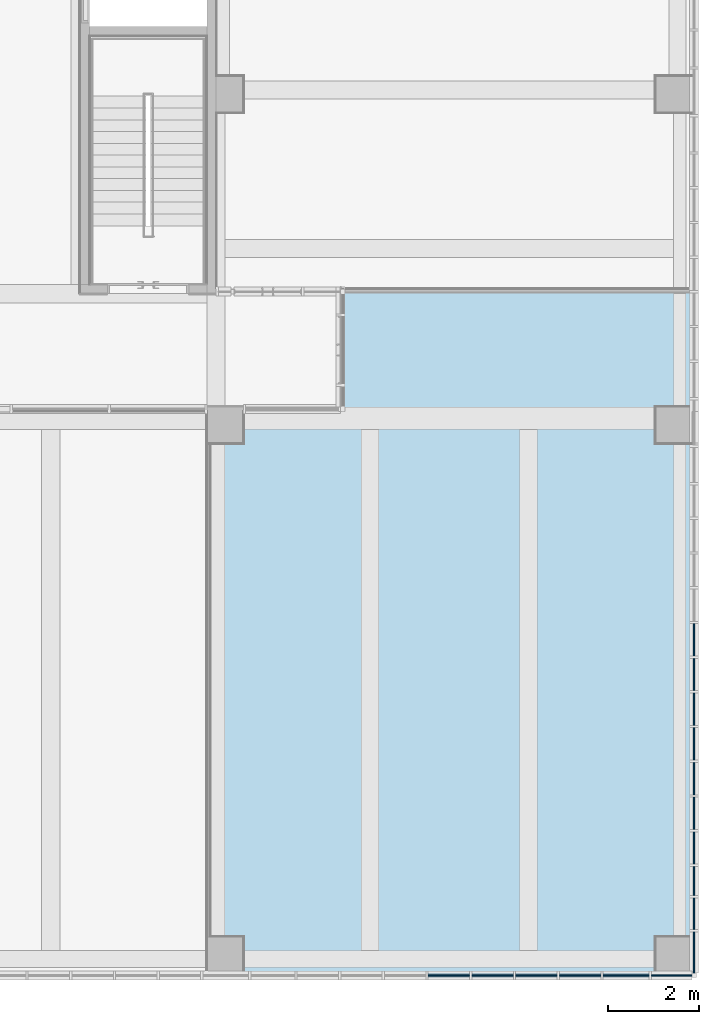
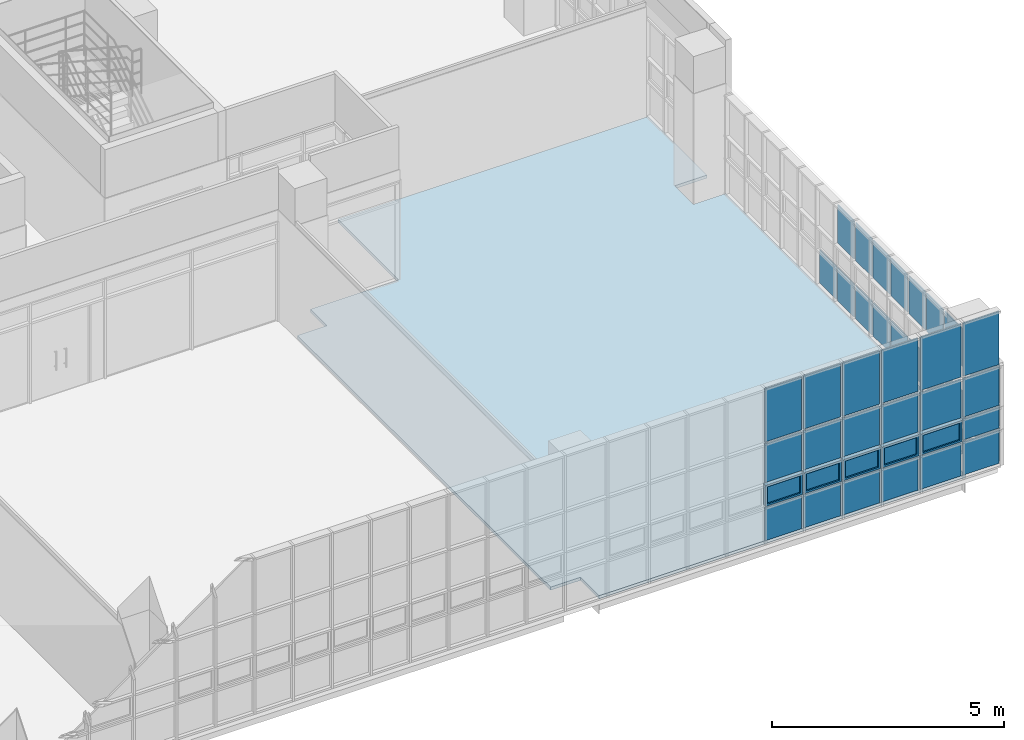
# One storey, part 35 of 76: 44 plates, 1 slab, 2 elements without a shape of their own.
"""IFC2X3 building model written with IfcOpenShell, lengths in millimetres."""

from ifc_helpers import new_model, entity, si_unit, converted_unit, derived_unit, direction, frame, origin, origin_2d_with_axis, place, context, subcontext, project, spatial, polyline, rectangle, outline, extrude, source, transform, mapped, material, material_list, layer, layer_set, layer_usage, type_object, type_shapes, element, aggregate, save


model = new_model("IFC2X3")

# Units and contexts
model_context = context("Model", 3, precision=0.01, world=origin(), true_north=direction((6.123031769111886e-17, 1.0)))
body_context = subcontext(model_context, "Body", "Model", "MODEL_VIEW")
ifc_project = project(units=[si_unit("LENGTHUNIT", "METRE", prefix="MILLI"), si_unit("AREAUNIT", "SQUARE_METRE"), si_unit("VOLUMEUNIT", "CUBIC_METRE"), converted_unit("PLANEANGLEUNIT", "DEGREE", entity("IfcRatioMeasure", 0.017453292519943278), si_unit("PLANEANGLEUNIT", "RADIAN"), dimensions=[0, 0, 0, 0, 0, 0, 0]), si_unit("MASSUNIT", "GRAM", prefix="KILO"), derived_unit("MASSDENSITYUNIT", [(si_unit("MASSUNIT", "GRAM", prefix="KILO"), 1), (si_unit("LENGTHUNIT", "METRE"), -3)]), derived_unit("MOMENTOFINERTIAUNIT", [(si_unit("LENGTHUNIT", "METRE"), 4)]), si_unit("TIMEUNIT", "SECOND"), si_unit("FREQUENCYUNIT", "HERTZ"), si_unit("THERMODYNAMICTEMPERATUREUNIT", "DEGREE_CELSIUS"), derived_unit("THERMALTRANSMITTANCEUNIT", [(si_unit("MASSUNIT", "GRAM", prefix="KILO"), 1), (si_unit("THERMODYNAMICTEMPERATUREUNIT", "KELVIN"), -1), (si_unit("TIMEUNIT", "SECOND"), -3)]), derived_unit("VOLUMETRICFLOWRATEUNIT", [(si_unit("LENGTHUNIT", "METRE"), 3), (si_unit("TIMEUNIT", "SECOND"), -1)]), derived_unit("MASSFLOWRATEUNIT", [(si_unit("MASSUNIT", "GRAM", prefix="KILO"), 1), (si_unit("TIMEUNIT", "SECOND"), -1)]), derived_unit("ROTATIONALFREQUENCYUNIT", [(si_unit("TIMEUNIT", "SECOND"), -1)]), si_unit("ELECTRICCURRENTUNIT", "AMPERE"), si_unit("ELECTRICVOLTAGEUNIT", "VOLT"), si_unit("POWERUNIT", "WATT"), si_unit("FORCEUNIT", "NEWTON", prefix="KILO"), si_unit("ILLUMINANCEUNIT", "LUX"), si_unit("LUMINOUSFLUXUNIT", "LUMEN"), si_unit("LUMINOUSINTENSITYUNIT", "CANDELA"), derived_unit("USERDEFINED", [(si_unit("MASSUNIT", "GRAM", prefix="KILO"), -1), (si_unit("LENGTHUNIT", "METRE"), -2), (si_unit("TIMEUNIT", "SECOND"), 3), (si_unit("LUMINOUSFLUXUNIT", "LUMEN"), 1)]), derived_unit("SOUNDPOWERUNIT", [(si_unit("MASSUNIT", "GRAM", prefix="KILO"), 1), (si_unit("LENGTHUNIT", "METRE"), 2), (si_unit("TIMEUNIT", "SECOND"), -3)]), derived_unit("SOUNDPRESSUREUNIT", [(si_unit("MASSUNIT", "GRAM", prefix="KILO"), 1), (si_unit("LENGTHUNIT", "METRE"), -1), (si_unit("TIMEUNIT", "SECOND"), -2)]), derived_unit("LINEARVELOCITYUNIT", [(si_unit("LENGTHUNIT", "METRE"), 1), (si_unit("TIMEUNIT", "SECOND"), -1)]), si_unit("PRESSUREUNIT", "PASCAL"), derived_unit("USERDEFINED", [(si_unit("LENGTHUNIT", "METRE"), -2), (si_unit("MASSUNIT", "GRAM", prefix="KILO"), 1), (si_unit("TIMEUNIT", "SECOND"), -2)]), derived_unit("LINEARFORCEUNIT", [(si_unit("MASSUNIT", "GRAM", prefix="KILO"), 1), (si_unit("LENGTHUNIT", "METRE"), 1), (si_unit("TIMEUNIT", "SECOND"), -2), (si_unit("LENGTHUNIT", "METRE"), -1)]), derived_unit("PLANARFORCEUNIT", [(si_unit("MASSUNIT", "GRAM", prefix="KILO"), 1), (si_unit("LENGTHUNIT", "METRE"), 1), (si_unit("TIMEUNIT", "SECOND"), -2), (si_unit("LENGTHUNIT", "METRE"), -2)])], contexts=[model_context])

# Site, building, storey
site_placement = place(None, frame((-14167.972527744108, -657.2125860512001, 0.0)))
site = spatial("IfcSite", under=ifc_project, at=site_placement, Name="Default", CompositionType="ELEMENT")
building_placement = place(site_placement, origin())
building = spatial("IfcBuilding", under=site, at=building_placement, Name="Sample Building", CompositionType="ELEMENT")
storey_placement = place(building_placement, frame((0.0, 0.0, 9300.0)))
storey = spatial("IfcBuildingStorey", under=building, at=storey_placement, Name="지상 3층", CompositionType="ELEMENT", Elevation=9300.000000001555)

# Curtain wall, plates
curtain_wall_type = type_object("IfcCurtainWallType", Name="커튼월:CW112-스테인리스 스틸 커튼월", PredefinedType="NOTDEFINED")
curtain_wall_1_placement = place(storey_placement, frame((0.0, 0.0, -9300.0)))
curtain_wall_1 = element("IfcCurtainWall", 1, at=curtain_wall_1_placement, inside=storey, type_object=curtain_wall_type, Name="커튼월:CW112-스테인리스 스틸 커튼월", ObjectType="커튼월:CW112-스테인리스 스틸 커튼월")
ifc_material_1 = material(Name="KBIMS-로이유리(코팅)")
plate_type_1 = type_object("IfcPlateType", Name="CW300-THK24.Low-e coating glass:CW300-THK24.Low-e coating glass", PredefinedType="CURTAIN_PANEL", material=ifc_material_1)
shared_shape_1 = source(origin(), body_context, "Body", "SweptSolid", [
    extrude(rectangle(XDim=914.9999999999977, YDim=24.000000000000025, at=origin_2d_with_axis()), frame((0.0, 0.0, 0.0), z_axis=(0.0, 0.0, 1.0), x_axis=(-1.0, 0.0, 0.0)), (0.0, 0.0, 1.0), 875.0000000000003),
])
type_shapes(plate_type_1, [shared_shape_1])
plate_1_placement = place(curtain_wall_1_placement, frame((46107.65607007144, 507.2122951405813, 9430.0)))
plate_1 = element("IfcPlate", 2, at=plate_1_placement, type_object=plate_type_1, material=ifc_material_1, Name="CW300-THK24.Low-e coating glass:CW300-THK24.Low-e coating glass", ObjectType="CW300-THK24.Low-e coating glass:CW300-THK24.Low-e coating glass", context=body_context, shape_type="MappedRepresentation", body=[
    mapped(shared_shape_1, transform((0.0, 0.0, 0.0), scale=1.0)),
])
plate_2_placement = place(curtain_wall_1_placement, frame((47072.65607007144, 507.2122951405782, 9430.0)))
plate_2 = element("IfcPlate", 3, at=plate_2_placement, type_object=plate_type_1, material=ifc_material_1, Name="CW300-THK24.Low-e coating glass:CW300-THK24.Low-e coating glass", ObjectType="CW300-THK24.Low-e coating glass:CW300-THK24.Low-e coating glass", context=body_context, shape_type="MappedRepresentation", body=[
    mapped(shared_shape_1, transform((0.0, 0.0, 0.0), scale=1.0)),
])
plate_3_placement = place(curtain_wall_1_placement, frame((48037.65607007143, 507.21229514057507, 9430.0)))
plate_3 = element("IfcPlate", 4, at=plate_3_placement, type_object=plate_type_1, material=ifc_material_1, Name="CW300-THK24.Low-e coating glass:CW300-THK24.Low-e coating glass", ObjectType="CW300-THK24.Low-e coating glass:CW300-THK24.Low-e coating glass", context=body_context, shape_type="MappedRepresentation", body=[
    mapped(shared_shape_1, transform((0.0, 0.0, 0.0), scale=1.0)),
])
plate_4_placement = place(curtain_wall_1_placement, frame((49002.65607007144, 507.21229514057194, 9430.0)))
plate_4 = element("IfcPlate", 5, at=plate_4_placement, type_object=plate_type_1, material=ifc_material_1, Name="CW300-THK24.Low-e coating glass:CW300-THK24.Low-e coating glass", ObjectType="CW300-THK24.Low-e coating glass:CW300-THK24.Low-e coating glass", context=body_context, shape_type="MappedRepresentation", body=[
    mapped(shared_shape_1, transform((0.0, 0.0, 0.0), scale=1.0)),
])
plate_type_2 = type_object("IfcPlateType", Name="CW300-THK24.Low-e coating glass:CW300-THK24.Low-e coating glass", PredefinedType="CURTAIN_PANEL", material=ifc_material_1)
shared_shape_2 = source(origin(), body_context, "Body", "SweptSolid", [
    extrude(rectangle(XDim=1014.9999999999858, YDim=24.000000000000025, at=origin_2d_with_axis()), frame((0.0, 0.0, 0.0), z_axis=(0.0, 0.0, 1.0), x_axis=(-1.0, 0.0, 0.0)), (0.0, 0.0, 1.0), 875.0000000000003),
])
type_shapes(plate_type_2, [shared_shape_2])
plate_5_placement = place(curtain_wall_1_placement, frame((50017.65607007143, 507.21229514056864, 9430.0)))
plate_5 = element("IfcPlate", 6, at=plate_5_placement, type_object=plate_type_2, material=ifc_material_1, Name="CW300-THK24.Low-e coating glass:CW300-THK24.Low-e coating glass", ObjectType="CW300-THK24.Low-e coating glass:CW300-THK24.Low-e coating glass", context=body_context, shape_type="MappedRepresentation", body=[
    mapped(shared_shape_2, transform((0.0, 0.0, 0.0), scale=1.0)),
])
plate_type_3 = type_object("IfcPlateType", Name="CW300-THK24.Low-e coating glass:CW300-THK24.Low-e coating glass", PredefinedType="CURTAIN_PANEL", material=ifc_material_1)
shared_shape_3 = source(origin(), body_context, "Body", "SweptSolid", [
    extrude(rectangle(XDim=892.8077588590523, YDim=24.000000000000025, at=origin_2d_with_axis()), frame((0.0, 0.0, 0.0), z_axis=(0.0, 0.0, 1.0), x_axis=(-1.0, 0.0, 0.0)), (0.0, 0.0, 1.0), 875.0000000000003),
])
type_shapes(plate_type_3, [shared_shape_3])
plate_6_placement = place(curtain_wall_1_placement, frame((51021.55994950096, 507.2122951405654, 9430.0)))
plate_6 = element("IfcPlate", 7, at=plate_6_placement, type_object=plate_type_3, material=ifc_material_1, Name="CW300-THK24.Low-e coating glass:CW300-THK24.Low-e coating glass", ObjectType="CW300-THK24.Low-e coating glass:CW300-THK24.Low-e coating glass", context=body_context, shape_type="MappedRepresentation", body=[
    mapped(shared_shape_3, transform((0.0, 0.0, 0.0), scale=1.0)),
])
ifc_material_2 = material(Name="KBIMS-유리")
ifc_material_3 = material(Name="KBIMS-알루미늄")
ifc_material_list_1 = material_list([ifc_material_2, ifc_material_3])
ifc_material_list_2 = material_list([ifc_material_2, ifc_material_3])
plate_type_4 = type_object("IfcPlateType", Name="CW410-프로젝트 창:CW410-프로젝트 창 (하부개폐)", PredefinedType="CURTAIN_PANEL", material=ifc_material_list_2)
shared_shape_4 = source(origin(), body_context, "Body", "SweptSolid", [
    extrude(rectangle(XDim=815.0000000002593, YDim=23.999999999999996, at=origin_2d_with_axis()), frame((0.0, -0.04999999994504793, 50.0), z_axis=(0.0, 0.0, 1.0), x_axis=(-1.0, 0.0, 0.0)), (0.0, 0.0, 1.0), 450.0000000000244),
    extrude(outline(polyline([(-457.4999999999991, -275.0), (457.4999999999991, -275.0), (457.4999999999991, 275.0), (-457.4999999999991, 275.0), (-457.4999999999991, -275.0)]), holes=[polyline([(-407.50000000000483, -225.0), (-407.5000000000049, 225.0), (407.50000000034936, 225.0), (407.50000000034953, -225.0), (-407.50000000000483, -225.0)])]), frame((0.0, -50.04999999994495, 275.0), z_axis=(0.0, 1.0, 0.0), x_axis=(1.0, 0.0, 0.0)), (0.0, 0.0, 1.0), 99.99999999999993),
])
type_shapes(plate_type_4, [shared_shape_4])
plate_7_placement = place(curtain_wall_1_placement, frame((46107.65607007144, 507.2122951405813, 10355.0)))
plate_7 = element("IfcPlate", 8, at=plate_7_placement, type_object=plate_type_4, material=ifc_material_list_1, Name="CW410-프로젝트 창:CW410-프로젝트 창 (하부개폐)", ObjectType="CW410-프로젝트 창:CW410-프로젝트 창 (하부개폐)", context=body_context, shape_type="MappedRepresentation", body=[
    mapped(shared_shape_4, transform((0.0, 0.0, 0.0), scale=1.0)),
])
ifc_material_list_3 = material_list([ifc_material_2, ifc_material_3])
plate_8_placement = place(curtain_wall_1_placement, frame((47072.65607007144, 507.2122951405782, 10355.0)))
plate_8 = element("IfcPlate", 9, at=plate_8_placement, type_object=plate_type_4, material=ifc_material_list_3, Name="CW410-프로젝트 창:CW410-프로젝트 창 (하부개폐)", ObjectType="CW410-프로젝트 창:CW410-프로젝트 창 (하부개폐)", context=body_context, shape_type="MappedRepresentation", body=[
    mapped(shared_shape_4, transform((0.0, 0.0, 0.0), scale=1.0)),
])
ifc_material_list_4 = material_list([ifc_material_2, ifc_material_3])
plate_9_placement = place(curtain_wall_1_placement, frame((48037.65607007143, 507.21229514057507, 10355.0)))
plate_9 = element("IfcPlate", 10, at=plate_9_placement, type_object=plate_type_4, material=ifc_material_list_4, Name="CW410-프로젝트 창:CW410-프로젝트 창 (하부개폐)", ObjectType="CW410-프로젝트 창:CW410-프로젝트 창 (하부개폐)", context=body_context, shape_type="MappedRepresentation", body=[
    mapped(shared_shape_4, transform((0.0, 0.0, 0.0), scale=1.0)),
])
ifc_material_list_5 = material_list([ifc_material_2, ifc_material_3])
plate_10_placement = place(curtain_wall_1_placement, frame((49002.65607007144, 507.21229514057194, 10355.0)))
plate_10 = element("IfcPlate", 11, at=plate_10_placement, type_object=plate_type_4, material=ifc_material_list_5, Name="CW410-프로젝트 창:CW410-프로젝트 창 (하부개폐)", ObjectType="CW410-프로젝트 창:CW410-프로젝트 창 (하부개폐)", context=body_context, shape_type="MappedRepresentation", body=[
    mapped(shared_shape_4, transform((0.0, 0.0, 0.0), scale=1.0)),
])
ifc_material_list_6 = material_list([ifc_material_2, ifc_material_3])
ifc_material_list_7 = material_list([ifc_material_2, ifc_material_3])
plate_type_5 = type_object("IfcPlateType", Name="CW410-프로젝트 창:CW410-프로젝트 창 (하부개폐)", PredefinedType="CURTAIN_PANEL", material=ifc_material_list_7)
shared_shape_5 = source(origin(), body_context, "Body", "SweptSolid", [
    extrude(rectangle(XDim=915.0000000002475, YDim=23.999999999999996, at=origin_2d_with_axis()), frame((0.0, -0.04999999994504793, 50.0), z_axis=(0.0, 0.0, 1.0), x_axis=(-1.0, 0.0, 0.0)), (0.0, 0.0, 1.0), 450.0000000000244),
    extrude(outline(polyline([(-507.4999999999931, -275.0), (507.4999999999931, -275.0), (507.4999999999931, 275.0), (-507.4999999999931, 275.0), (-507.4999999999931, -275.0)]), holes=[polyline([(-457.49999999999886, -225.0), (-457.4999999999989, 225.0), (457.50000000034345, 225.0), (457.50000000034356, -225.0), (-457.49999999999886, -225.0)])]), frame((0.0, -50.04999999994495, 275.0), z_axis=(0.0, 1.0, 0.0), x_axis=(1.0, 0.0, 0.0)), (0.0, 0.0, 1.0), 99.99999999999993),
])
type_shapes(plate_type_5, [shared_shape_5])
plate_11_placement = place(curtain_wall_1_placement, frame((50017.65607007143, 507.21229514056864, 10355.0)))
plate_11 = element("IfcPlate", 12, at=plate_11_placement, type_object=plate_type_5, material=ifc_material_list_6, Name="CW410-프로젝트 창:CW410-프로젝트 창 (하부개폐)", ObjectType="CW410-프로젝트 창:CW410-프로젝트 창 (하부개폐)", context=body_context, shape_type="MappedRepresentation", body=[
    mapped(shared_shape_5, transform((0.0, 0.0, 0.0), scale=1.0)),
])
plate_type_6 = type_object("IfcPlateType", Name="CW300-THK24.Low-e coating glass:CW300-THK24.Low-e coating glass", PredefinedType="CURTAIN_PANEL", material=ifc_material_1)
shared_shape_6 = source(origin(), body_context, "Body", "SweptSolid", [
    extrude(rectangle(XDim=892.8077588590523, YDim=24.000000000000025, at=origin_2d_with_axis()), frame((0.0, 0.0, 0.0), z_axis=(0.0, 0.0, 1.0), x_axis=(-1.0, 0.0, 0.0)), (0.0, 0.0, 1.0), 549.9999999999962),
])
type_shapes(plate_type_6, [shared_shape_6])
plate_12_placement = place(curtain_wall_1_placement, frame((51021.55994950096, 507.2122951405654, 10355.0)))
plate_12 = element("IfcPlate", 13, at=plate_12_placement, type_object=plate_type_6, material=ifc_material_1, Name="CW300-THK24.Low-e coating glass:CW300-THK24.Low-e coating glass", ObjectType="CW300-THK24.Low-e coating glass:CW300-THK24.Low-e coating glass", context=body_context, shape_type="MappedRepresentation", body=[
    mapped(shared_shape_6, transform((0.0, 0.0, 0.0), scale=1.0)),
])
plate_type_7 = type_object("IfcPlateType", Name="CW300-THK24.Low-e coating glass:CW300-THK24.Low-e coating glass", PredefinedType="CURTAIN_PANEL", material=ifc_material_1)
shared_shape_7 = source(origin(), body_context, "Body", "SweptSolid", [
    extrude(rectangle(XDim=914.9999999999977, YDim=24.000000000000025, at=origin_2d_with_axis()), frame((0.0, 0.0, 0.0), z_axis=(0.0, 0.0, 1.0), x_axis=(-1.0, 0.0, 0.0)), (0.0, 0.0, 1.0), 1020.0000000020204),
])
type_shapes(plate_type_7, [shared_shape_7])
plate_13_placement = place(curtain_wall_1_placement, frame((46107.65607007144, 507.2122951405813, 10955.0)))
plate_13 = element("IfcPlate", 14, at=plate_13_placement, type_object=plate_type_7, material=ifc_material_1, Name="CW300-THK24.Low-e coating glass:CW300-THK24.Low-e coating glass", ObjectType="CW300-THK24.Low-e coating glass:CW300-THK24.Low-e coating glass", context=body_context, shape_type="MappedRepresentation", body=[
    mapped(shared_shape_7, transform((0.0, 0.0, 0.0), scale=1.0)),
])
plate_14_placement = place(curtain_wall_1_placement, frame((47072.65607007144, 507.2122951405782, 10955.0)))
plate_14 = element("IfcPlate", 15, at=plate_14_placement, type_object=plate_type_7, material=ifc_material_1, Name="CW300-THK24.Low-e coating glass:CW300-THK24.Low-e coating glass", ObjectType="CW300-THK24.Low-e coating glass:CW300-THK24.Low-e coating glass", context=body_context, shape_type="MappedRepresentation", body=[
    mapped(shared_shape_7, transform((0.0, 0.0, 0.0), scale=1.0)),
])
plate_15_placement = place(curtain_wall_1_placement, frame((48037.65607007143, 507.21229514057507, 10955.0)))
plate_15 = element("IfcPlate", 16, at=plate_15_placement, type_object=plate_type_7, material=ifc_material_1, Name="CW300-THK24.Low-e coating glass:CW300-THK24.Low-e coating glass", ObjectType="CW300-THK24.Low-e coating glass:CW300-THK24.Low-e coating glass", context=body_context, shape_type="MappedRepresentation", body=[
    mapped(shared_shape_7, transform((0.0, 0.0, 0.0), scale=1.0)),
])
plate_16_placement = place(curtain_wall_1_placement, frame((49002.65607007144, 507.21229514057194, 10955.0)))
plate_16 = element("IfcPlate", 17, at=plate_16_placement, type_object=plate_type_7, material=ifc_material_1, Name="CW300-THK24.Low-e coating glass:CW300-THK24.Low-e coating glass", ObjectType="CW300-THK24.Low-e coating glass:CW300-THK24.Low-e coating glass", context=body_context, shape_type="MappedRepresentation", body=[
    mapped(shared_shape_7, transform((0.0, 0.0, 0.0), scale=1.0)),
])
plate_type_8 = type_object("IfcPlateType", Name="CW300-THK24.Low-e coating glass:CW300-THK24.Low-e coating glass", PredefinedType="CURTAIN_PANEL", material=ifc_material_1)
shared_shape_8 = source(origin(), body_context, "Body", "SweptSolid", [
    extrude(rectangle(XDim=1014.9999999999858, YDim=24.000000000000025, at=origin_2d_with_axis()), frame((0.0, 0.0, 0.0), z_axis=(0.0, 0.0, 1.0), x_axis=(-1.0, 0.0, 0.0)), (0.0, 0.0, 1.0), 1020.0000000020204),
])
type_shapes(plate_type_8, [shared_shape_8])
plate_17_placement = place(curtain_wall_1_placement, frame((50017.65607007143, 507.21229514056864, 10955.0)))
plate_17 = element("IfcPlate", 18, at=plate_17_placement, type_object=plate_type_8, material=ifc_material_1, Name="CW300-THK24.Low-e coating glass:CW300-THK24.Low-e coating glass", ObjectType="CW300-THK24.Low-e coating glass:CW300-THK24.Low-e coating glass", context=body_context, shape_type="MappedRepresentation", body=[
    mapped(shared_shape_8, transform((0.0, 0.0, 0.0), scale=1.0)),
])
plate_type_9 = type_object("IfcPlateType", Name="CW300-THK24.Low-e coating glass:CW300-THK24.Low-e coating glass", PredefinedType="CURTAIN_PANEL", material=ifc_material_1)
shared_shape_9 = source(origin(), body_context, "Body", "SweptSolid", [
    extrude(rectangle(XDim=892.8077588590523, YDim=24.000000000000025, at=origin_2d_with_axis()), frame((0.0, 0.0, 0.0), z_axis=(0.0, 0.0, 1.0), x_axis=(-1.0, 0.0, 0.0)), (0.0, 0.0, 1.0), 1020.0000000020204),
])
type_shapes(plate_type_9, [shared_shape_9])
plate_18_placement = place(curtain_wall_1_placement, frame((51021.55994950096, 507.2122951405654, 10955.0)))
plate_18 = element("IfcPlate", 19, at=plate_18_placement, type_object=plate_type_9, material=ifc_material_1, Name="CW300-THK24.Low-e coating glass:CW300-THK24.Low-e coating glass", ObjectType="CW300-THK24.Low-e coating glass:CW300-THK24.Low-e coating glass", context=body_context, shape_type="MappedRepresentation", body=[
    mapped(shared_shape_9, transform((0.0, 0.0, 0.0), scale=1.0)),
])
plate_type_10 = type_object("IfcPlateType", Name="CW300-THK24.Low-e coating glass:CW300-THK24.Low-e coating glass", PredefinedType="CURTAIN_PANEL", material=ifc_material_1)
shared_shape_10 = source(origin(), body_context, "Body", "SweptSolid", [
    extrude(rectangle(XDim=914.9999999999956, YDim=24.000000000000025, at=origin_2d_with_axis()), frame((0.0, 0.0, 0.0), z_axis=(0.0, 0.0, 1.0), x_axis=(-1.0, 0.0, 0.0)), (0.0, 0.0, 1.0), 1404.9999999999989),
])
type_shapes(plate_type_10, [shared_shape_10])
plate_19_placement = place(curtain_wall_1_placement, frame((46107.65607007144, 507.2122951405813, 12025.0)))
plate_19 = element("IfcPlate", 20, at=plate_19_placement, type_object=plate_type_10, material=ifc_material_1, Name="CW300-THK24.Low-e coating glass:CW300-THK24.Low-e coating glass", ObjectType="CW300-THK24.Low-e coating glass:CW300-THK24.Low-e coating glass", context=body_context, shape_type="MappedRepresentation", body=[
    mapped(shared_shape_10, transform((0.0, 0.0, 0.0), scale=1.0)),
])
plate_20_placement = place(curtain_wall_1_placement, frame((47072.65607007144, 507.2122951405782, 12025.0)))
plate_20 = element("IfcPlate", 21, at=plate_20_placement, type_object=plate_type_10, material=ifc_material_1, Name="CW300-THK24.Low-e coating glass:CW300-THK24.Low-e coating glass", ObjectType="CW300-THK24.Low-e coating glass:CW300-THK24.Low-e coating glass", context=body_context, shape_type="MappedRepresentation", body=[
    mapped(shared_shape_10, transform((0.0, 0.0, 0.0), scale=1.0)),
])
plate_21_placement = place(curtain_wall_1_placement, frame((48037.65607007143, 507.21229514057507, 12025.0)))
plate_21 = element("IfcPlate", 22, at=plate_21_placement, type_object=plate_type_10, material=ifc_material_1, Name="CW300-THK24.Low-e coating glass:CW300-THK24.Low-e coating glass", ObjectType="CW300-THK24.Low-e coating glass:CW300-THK24.Low-e coating glass", context=body_context, shape_type="MappedRepresentation", body=[
    mapped(shared_shape_10, transform((0.0, 0.0, 0.0), scale=1.0)),
])
plate_22_placement = place(curtain_wall_1_placement, frame((49002.65607007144, 507.21229514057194, 12025.0)))
plate_22 = element("IfcPlate", 23, at=plate_22_placement, type_object=plate_type_10, material=ifc_material_1, Name="CW300-THK24.Low-e coating glass:CW300-THK24.Low-e coating glass", ObjectType="CW300-THK24.Low-e coating glass:CW300-THK24.Low-e coating glass", context=body_context, shape_type="MappedRepresentation", body=[
    mapped(shared_shape_10, transform((0.0, 0.0, 0.0), scale=1.0)),
])
plate_type_11 = type_object("IfcPlateType", Name="CW300-THK24.Low-e coating glass:CW300-THK24.Low-e coating glass", PredefinedType="CURTAIN_PANEL", material=ifc_material_1)
shared_shape_11 = source(origin(), body_context, "Body", "SweptSolid", [
    extrude(rectangle(XDim=1014.9999999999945, YDim=24.000000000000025, at=origin_2d_with_axis()), frame((0.0, 0.0, 0.0), z_axis=(0.0, 0.0, 1.0), x_axis=(-1.0, 0.0, 0.0)), (0.0, 0.0, 1.0), 1404.9999999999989),
])
type_shapes(plate_type_11, [shared_shape_11])
plate_23_placement = place(curtain_wall_1_placement, frame((50017.65607007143, 507.21229514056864, 12025.0)))
plate_23 = element("IfcPlate", 24, at=plate_23_placement, type_object=plate_type_11, material=ifc_material_1, Name="CW300-THK24.Low-e coating glass:CW300-THK24.Low-e coating glass", ObjectType="CW300-THK24.Low-e coating glass:CW300-THK24.Low-e coating glass", context=body_context, shape_type="MappedRepresentation", body=[
    mapped(shared_shape_11, transform((0.0, 0.0, 0.0), scale=1.0)),
])
plate_type_12 = type_object("IfcPlateType", Name="CW300-THK24.Low-e coating glass:CW300-THK24.Low-e coating glass", PredefinedType="CURTAIN_PANEL", material=ifc_material_1)
shared_shape_12 = source(origin(), body_context, "Body", "SweptSolid", [
    extrude(rectangle(XDim=892.8077588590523, YDim=24.000000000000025, at=origin_2d_with_axis()), frame((0.0, 0.0, 0.0), z_axis=(0.0, 0.0, 1.0), x_axis=(-1.0, 0.0, 0.0)), (0.0, 0.0, 1.0), 1404.9999999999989),
])
type_shapes(plate_type_12, [shared_shape_12])
plate_24_placement = place(curtain_wall_1_placement, frame((51021.55994950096, 507.2122951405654, 12025.0)))
plate_24 = element("IfcPlate", 25, at=plate_24_placement, type_object=plate_type_12, material=ifc_material_1, Name="CW300-THK24.Low-e coating glass:CW300-THK24.Low-e coating glass", ObjectType="CW300-THK24.Low-e coating glass:CW300-THK24.Low-e coating glass", context=body_context, shape_type="MappedRepresentation", body=[
    mapped(shared_shape_12, transform((0.0, 0.0, 0.0), scale=1.0)),
])
aggregate(curtain_wall_1, [plate_1, plate_2, plate_3, plate_4, plate_5, plate_6, plate_7, plate_8, plate_9, plate_10, plate_11, plate_12, plate_13, plate_14, plate_15, plate_16, plate_17, plate_18, plate_19, plate_20, plate_21, plate_22, plate_23, plate_24])

curtain_wall_2_placement = place(storey_placement, frame((0.0, 0.0, -9300.0)))
curtain_wall_2 = element("IfcCurtainWall", 26, at=curtain_wall_2_placement, inside=storey, type_object=curtain_wall_type, Name="커튼월:CW112-스테인리스 스틸 커튼월", ObjectType="커튼월:CW112-스테인리스 스틸 커튼월")
plate_type_13 = type_object("IfcPlateType", Name="CW300-THK24.Low-e coating glass:CW300-THK24.Low-e coating glass", PredefinedType="CURTAIN_PANEL", material=ifc_material_1)
shared_shape_13 = source(origin(), body_context, "Body", "SweptSolid", [
    extrude(rectangle(XDim=24.000000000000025, YDim=715.9999999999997, at=origin_2d_with_axis()), frame((0.0, 0.0, 0.0), z_axis=(0.0, 0.0, 1.0), x_axis=(0.0, 1.0, 0.0)), (0.0, 0.0, 1.0), 875.0000000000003),
])
type_shapes(plate_type_13, [shared_shape_13])
plate_25_placement = place(curtain_wall_2_placement, frame((51517.96382893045, 7917.817707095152, 9430.0), z_axis=(0.0, 0.0, 1.0), x_axis=(0.0, -1.0, 0.0)))
plate_25 = element("IfcPlate", 27, at=plate_25_placement, type_object=plate_type_13, material=ifc_material_1, Name="CW300-THK24.Low-e coating glass:CW300-THK24.Low-e coating glass", ObjectType="CW300-THK24.Low-e coating glass:CW300-THK24.Low-e coating glass", context=body_context, shape_type="MappedRepresentation", body=[
    mapped(shared_shape_13, transform((0.0, 0.0, 0.0), scale=1.0)),
])
plate_26_placement = place(curtain_wall_2_placement, frame((51517.96382893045, 7151.817707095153, 9430.0), z_axis=(0.0, 0.0, 1.0), x_axis=(0.0, -1.0, 0.0)))
plate_26 = element("IfcPlate", 28, at=plate_26_placement, type_object=plate_type_13, material=ifc_material_1, Name="CW300-THK24.Low-e coating glass:CW300-THK24.Low-e coating glass", ObjectType="CW300-THK24.Low-e coating glass:CW300-THK24.Low-e coating glass", context=body_context, shape_type="MappedRepresentation", body=[
    mapped(shared_shape_13, transform((0.0, 0.0, 0.0), scale=1.0)),
])
plate_27_placement = place(curtain_wall_2_placement, frame((51517.96382893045, 6385.817707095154, 9430.0), z_axis=(0.0, 0.0, 1.0), x_axis=(0.0, -1.0, 0.0)))
plate_27 = element("IfcPlate", 29, at=plate_27_placement, type_object=plate_type_13, material=ifc_material_1, Name="CW300-THK24.Low-e coating glass:CW300-THK24.Low-e coating glass", ObjectType="CW300-THK24.Low-e coating glass:CW300-THK24.Low-e coating glass", context=body_context, shape_type="MappedRepresentation", body=[
    mapped(shared_shape_13, transform((0.0, 0.0, 0.0), scale=1.0)),
])
plate_28_placement = place(curtain_wall_2_placement, frame((51517.96382893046, 5619.817707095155, 9430.0), z_axis=(0.0, 0.0, 1.0), x_axis=(0.0, -1.0, 0.0)))
plate_28 = element("IfcPlate", 30, at=plate_28_placement, type_object=plate_type_13, material=ifc_material_1, Name="CW300-THK24.Low-e coating glass:CW300-THK24.Low-e coating glass", ObjectType="CW300-THK24.Low-e coating glass:CW300-THK24.Low-e coating glass", context=body_context, shape_type="MappedRepresentation", body=[
    mapped(shared_shape_13, transform((0.0, 0.0, 0.0), scale=1.0)),
])
plate_29_placement = place(curtain_wall_2_placement, frame((51517.96382893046, 4853.817707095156, 9430.0), z_axis=(0.0, 0.0, 1.0), x_axis=(0.0, -1.0, 0.0)))
plate_29 = element("IfcPlate", 31, at=plate_29_placement, type_object=plate_type_13, material=ifc_material_1, Name="CW300-THK24.Low-e coating glass:CW300-THK24.Low-e coating glass", ObjectType="CW300-THK24.Low-e coating glass:CW300-THK24.Low-e coating glass", context=body_context, shape_type="MappedRepresentation", body=[
    mapped(shared_shape_13, transform((0.0, 0.0, 0.0), scale=1.0)),
])
plate_30_placement = place(curtain_wall_2_placement, frame((51517.96382893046, 4087.8177070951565, 9430.0), z_axis=(0.0, 0.0, 1.0), x_axis=(0.0, -1.0, 0.0)))
plate_30 = element("IfcPlate", 32, at=plate_30_placement, type_object=plate_type_13, material=ifc_material_1, Name="CW300-THK24.Low-e coating glass:CW300-THK24.Low-e coating glass", ObjectType="CW300-THK24.Low-e coating glass:CW300-THK24.Low-e coating glass", context=body_context, shape_type="MappedRepresentation", body=[
    mapped(shared_shape_13, transform((0.0, 0.0, 0.0), scale=1.0)),
])
plate_31_placement = place(curtain_wall_2_placement, frame((51517.96382893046, 3321.8177070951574, 9430.0), z_axis=(0.0, 0.0, 1.0), x_axis=(0.0, -1.0, 0.0)))
plate_31 = element("IfcPlate", 33, at=plate_31_placement, type_object=plate_type_13, material=ifc_material_1, Name="CW300-THK24.Low-e coating glass:CW300-THK24.Low-e coating glass", ObjectType="CW300-THK24.Low-e coating glass:CW300-THK24.Low-e coating glass", context=body_context, shape_type="MappedRepresentation", body=[
    mapped(shared_shape_13, transform((0.0, 0.0, 0.0), scale=1.0)),
])
plate_type_14 = type_object("IfcPlateType", Name="CW300-THK24.Low-e coating glass:CW300-THK24.Low-e coating glass", PredefinedType="CURTAIN_PANEL", material=ifc_material_1)
shared_shape_14 = source(origin(), body_context, "Body", "SweptSolid", [
    extrude(rectangle(XDim=24.000000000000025, YDim=642.0000000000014, at=origin_2d_with_axis()), frame((0.0, 0.0, 0.0), z_axis=(0.0, 0.0, 1.0), x_axis=(0.0, 1.0, 0.0)), (0.0, 0.0, 1.0), 875.0000000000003),
])
type_shapes(plate_type_14, [shared_shape_14])
plate_32_placement = place(curtain_wall_2_placement, frame((51517.96382893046, 2592.8177070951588, 9430.0), z_axis=(0.0, 0.0, 1.0), x_axis=(0.0, -1.0, 0.0)))
plate_32 = element("IfcPlate", 34, at=plate_32_placement, type_object=plate_type_14, material=ifc_material_1, Name="CW300-THK24.Low-e coating glass:CW300-THK24.Low-e coating glass", ObjectType="CW300-THK24.Low-e coating glass:CW300-THK24.Low-e coating glass", context=body_context, shape_type="MappedRepresentation", body=[
    mapped(shared_shape_14, transform((0.0, 0.0, 0.0), scale=1.0)),
])
plate_type_15 = type_object("IfcPlateType", Name="CW300-THK24.Low-e coating glass:CW300-THK24.Low-e coating glass", PredefinedType="CURTAIN_PANEL", material=ifc_material_1)
shared_shape_15 = source(origin(), body_context, "Body", "SweptSolid", [
    extrude(rectangle(XDim=24.000000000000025, YDim=701.9999999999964, at=origin_2d_with_axis()), frame((0.0, 0.0, 0.0), z_axis=(0.0, 0.0, 1.0), x_axis=(0.0, 1.0, 0.0)), (0.0, 0.0, 1.0), 875.0000000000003),
])
type_shapes(plate_type_15, [shared_shape_15])
plate_33_placement = place(curtain_wall_2_placement, frame((51517.96382893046, 1870.8177070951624, 9430.0), z_axis=(0.0, 0.0, 1.0), x_axis=(0.0, -1.0, 0.0)))
plate_33 = element("IfcPlate", 35, at=plate_33_placement, type_object=plate_type_15, material=ifc_material_1, Name="CW300-THK24.Low-e coating glass:CW300-THK24.Low-e coating glass", ObjectType="CW300-THK24.Low-e coating glass:CW300-THK24.Low-e coating glass", context=body_context, shape_type="MappedRepresentation", body=[
    mapped(shared_shape_15, transform((0.0, 0.0, 0.0), scale=1.0)),
])
plate_type_16 = type_object("IfcPlateType", Name="CW300-THK24.Low-e coating glass:CW300-THK24.Low-e coating glass", PredefinedType="CURTAIN_PANEL", material=ifc_material_1)
shared_shape_16 = source(origin(), body_context, "Body", "SweptSolid", [
    extrude(rectangle(XDim=24.000000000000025, YDim=912.6053991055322, at=origin_2d_with_axis()), frame((0.0, 0.0, 0.0), z_axis=(0.0, 0.0, 1.0), x_axis=(0.0, 1.0, 0.0)), (0.0, 0.0, 1.0), 875.0000000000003),
])
type_shapes(plate_type_16, [shared_shape_16])
plate_34_placement = place(curtain_wall_2_placement, frame((51517.96382893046, 1013.5150075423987, 9430.0), z_axis=(0.0, 0.0, 1.0), x_axis=(0.0, -1.0, 0.0)))
plate_34 = element("IfcPlate", 36, at=plate_34_placement, type_object=plate_type_16, material=ifc_material_1, Name="CW300-THK24.Low-e coating glass:CW300-THK24.Low-e coating glass", ObjectType="CW300-THK24.Low-e coating glass:CW300-THK24.Low-e coating glass", context=body_context, shape_type="MappedRepresentation", body=[
    mapped(shared_shape_16, transform((0.0, 0.0, 0.0), scale=1.0)),
])
plate_type_17 = type_object("IfcPlateType", Name="CW300-THK24.Low-e coating glass:CW300-THK24.Low-e coating glass", PredefinedType="CURTAIN_PANEL", material=ifc_material_1)
shared_shape_17 = source(origin(), body_context, "Body", "SweptSolid", [
    extrude(rectangle(XDim=24.000000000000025, YDim=912.6053991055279, at=origin_2d_with_axis()), frame((0.0, 0.0, 0.0), z_axis=(0.0, 0.0, 1.0), x_axis=(0.0, 1.0, 0.0)), (0.0, 0.0, 1.0), 549.9999999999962),
])
type_shapes(plate_type_17, [shared_shape_17])
plate_35_placement = place(curtain_wall_2_placement, frame((51517.96382893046, 1013.515007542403, 10355.0), z_axis=(0.0, 0.0, 1.0), x_axis=(0.0, -1.0, 0.0)))
plate_35 = element("IfcPlate", 37, at=plate_35_placement, type_object=plate_type_17, material=ifc_material_1, Name="CW300-THK24.Low-e coating glass:CW300-THK24.Low-e coating glass", ObjectType="CW300-THK24.Low-e coating glass:CW300-THK24.Low-e coating glass", context=body_context, shape_type="MappedRepresentation", body=[
    mapped(shared_shape_17, transform((0.0, 0.0, 0.0), scale=1.0)),
])
plate_type_18 = type_object("IfcPlateType", Name="CW300-THK24.Low-e coating glass:CW300-THK24.Low-e coating glass", PredefinedType="CURTAIN_PANEL", material=ifc_material_1)
shared_shape_18 = source(origin(), body_context, "Body", "SweptSolid", [
    extrude(rectangle(XDim=24.000000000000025, YDim=715.9999999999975, at=origin_2d_with_axis()), frame((0.0, 0.0, 0.0), z_axis=(0.0, 0.0, 1.0), x_axis=(0.0, 1.0, 0.0)), (0.0, 0.0, 1.0), 995.0000000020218),
])
type_shapes(plate_type_18, [shared_shape_18])
plate_36_placement = place(curtain_wall_2_placement, frame((51517.96382893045, 7151.817707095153, 10955.0), z_axis=(0.0, 0.0, 1.0), x_axis=(0.0, -1.0, 0.0)))
plate_36 = element("IfcPlate", 38, at=plate_36_placement, type_object=plate_type_18, material=ifc_material_1, Name="CW300-THK24.Low-e coating glass:CW300-THK24.Low-e coating glass", ObjectType="CW300-THK24.Low-e coating glass:CW300-THK24.Low-e coating glass", context=body_context, shape_type="MappedRepresentation", body=[
    mapped(shared_shape_18, transform((0.0, 0.0, 0.0), scale=1.0)),
])
plate_37_placement = place(curtain_wall_2_placement, frame((51517.96382893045, 6385.817707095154, 10955.0), z_axis=(0.0, 0.0, 1.0), x_axis=(0.0, -1.0, 0.0)))
plate_37 = element("IfcPlate", 39, at=plate_37_placement, type_object=plate_type_18, material=ifc_material_1, Name="CW300-THK24.Low-e coating glass:CW300-THK24.Low-e coating glass", ObjectType="CW300-THK24.Low-e coating glass:CW300-THK24.Low-e coating glass", context=body_context, shape_type="MappedRepresentation", body=[
    mapped(shared_shape_18, transform((0.0, 0.0, 0.0), scale=1.0)),
])
plate_38_placement = place(curtain_wall_2_placement, frame((51517.96382893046, 5619.817707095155, 10955.0), z_axis=(0.0, 0.0, 1.0), x_axis=(0.0, -1.0, 0.0)))
plate_38 = element("IfcPlate", 40, at=plate_38_placement, type_object=plate_type_18, material=ifc_material_1, Name="CW300-THK24.Low-e coating glass:CW300-THK24.Low-e coating glass", ObjectType="CW300-THK24.Low-e coating glass:CW300-THK24.Low-e coating glass", context=body_context, shape_type="MappedRepresentation", body=[
    mapped(shared_shape_18, transform((0.0, 0.0, 0.0), scale=1.0)),
])
plate_39_placement = place(curtain_wall_2_placement, frame((51517.96382893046, 4853.817707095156, 10955.0), z_axis=(0.0, 0.0, 1.0), x_axis=(0.0, -1.0, 0.0)))
plate_39 = element("IfcPlate", 41, at=plate_39_placement, type_object=plate_type_18, material=ifc_material_1, Name="CW300-THK24.Low-e coating glass:CW300-THK24.Low-e coating glass", ObjectType="CW300-THK24.Low-e coating glass:CW300-THK24.Low-e coating glass", context=body_context, shape_type="MappedRepresentation", body=[
    mapped(shared_shape_18, transform((0.0, 0.0, 0.0), scale=1.0)),
])
plate_40_placement = place(curtain_wall_2_placement, frame((51517.96382893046, 4087.8177070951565, 10955.0), z_axis=(0.0, 0.0, 1.0), x_axis=(0.0, -1.0, 0.0)))
plate_40 = element("IfcPlate", 42, at=plate_40_placement, type_object=plate_type_18, material=ifc_material_1, Name="CW300-THK24.Low-e coating glass:CW300-THK24.Low-e coating glass", ObjectType="CW300-THK24.Low-e coating glass:CW300-THK24.Low-e coating glass", context=body_context, shape_type="MappedRepresentation", body=[
    mapped(shared_shape_18, transform((0.0, 0.0, 0.0), scale=1.0)),
])
plate_41_placement = place(curtain_wall_2_placement, frame((51517.96382893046, 3321.8177070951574, 10955.0), z_axis=(0.0, 0.0, 1.0), x_axis=(0.0, -1.0, 0.0)))
plate_41 = element("IfcPlate", 43, at=plate_41_placement, type_object=plate_type_18, material=ifc_material_1, Name="CW300-THK24.Low-e coating glass:CW300-THK24.Low-e coating glass", ObjectType="CW300-THK24.Low-e coating glass:CW300-THK24.Low-e coating glass", context=body_context, shape_type="MappedRepresentation", body=[
    mapped(shared_shape_18, transform((0.0, 0.0, 0.0), scale=1.0)),
])
plate_type_19 = type_object("IfcPlateType", Name="CW300-THK24.Low-e coating glass:CW300-THK24.Low-e coating glass", PredefinedType="CURTAIN_PANEL", material=ifc_material_1)
shared_shape_19 = source(origin(), body_context, "Body", "SweptSolid", [
    extrude(rectangle(XDim=24.000000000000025, YDim=642.0000000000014, at=origin_2d_with_axis()), frame((0.0, 0.0, 0.0), z_axis=(0.0, 0.0, 1.0), x_axis=(0.0, 1.0, 0.0)), (0.0, 0.0, 1.0), 995.0000000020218),
])
type_shapes(plate_type_19, [shared_shape_19])
plate_42_placement = place(curtain_wall_2_placement, frame((51517.96382893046, 2592.8177070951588, 10955.0), z_axis=(0.0, 0.0, 1.0), x_axis=(0.0, -1.0, 0.0)))
plate_42 = element("IfcPlate", 44, at=plate_42_placement, type_object=plate_type_19, material=ifc_material_1, Name="CW300-THK24.Low-e coating glass:CW300-THK24.Low-e coating glass", ObjectType="CW300-THK24.Low-e coating glass:CW300-THK24.Low-e coating glass", context=body_context, shape_type="MappedRepresentation", body=[
    mapped(shared_shape_19, transform((0.0, 0.0, 0.0), scale=1.0)),
])
plate_type_20 = type_object("IfcPlateType", Name="CW300-THK24.Low-e coating glass:CW300-THK24.Low-e coating glass", PredefinedType="CURTAIN_PANEL", material=ifc_material_1)
shared_shape_20 = source(origin(), body_context, "Body", "SweptSolid", [
    extrude(rectangle(XDim=24.000000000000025, YDim=701.9999999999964, at=origin_2d_with_axis()), frame((0.0, 0.0, 0.0), z_axis=(0.0, 0.0, 1.0), x_axis=(0.0, 1.0, 0.0)), (0.0, 0.0, 1.0), 995.0000000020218),
])
type_shapes(plate_type_20, [shared_shape_20])
plate_43_placement = place(curtain_wall_2_placement, frame((51517.96382893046, 1870.817707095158, 10955.0), z_axis=(0.0, 0.0, 1.0), x_axis=(0.0, -1.0, 0.0)))
plate_43 = element("IfcPlate", 45, at=plate_43_placement, type_object=plate_type_20, material=ifc_material_1, Name="CW300-THK24.Low-e coating glass:CW300-THK24.Low-e coating glass", ObjectType="CW300-THK24.Low-e coating glass:CW300-THK24.Low-e coating glass", context=body_context, shape_type="MappedRepresentation", body=[
    mapped(shared_shape_20, transform((0.0, 0.0, 0.0), scale=1.0)),
])
plate_type_21 = type_object("IfcPlateType", Name="CW300-THK24.Low-e coating glass:CW300-THK24.Low-e coating glass", PredefinedType="CURTAIN_PANEL", material=ifc_material_1)
shared_shape_21 = source(origin(), body_context, "Body", "SweptSolid", [
    extrude(rectangle(XDim=24.000000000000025, YDim=912.6053991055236, at=origin_2d_with_axis()), frame((0.0, 0.0, 0.0), z_axis=(0.0, 0.0, 1.0), x_axis=(0.0, 1.0, 0.0)), (0.0, 0.0, 1.0), 995.0000000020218),
])
type_shapes(plate_type_21, [shared_shape_21])
plate_44_placement = place(curtain_wall_2_placement, frame((51517.96382893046, 1013.5150075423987, 10955.0), z_axis=(0.0, 0.0, 1.0), x_axis=(0.0, -1.0, 0.0)))
plate_44 = element("IfcPlate", 46, at=plate_44_placement, type_object=plate_type_21, material=ifc_material_1, Name="CW300-THK24.Low-e coating glass:CW300-THK24.Low-e coating glass", ObjectType="CW300-THK24.Low-e coating glass:CW300-THK24.Low-e coating glass", context=body_context, shape_type="MappedRepresentation", body=[
    mapped(shared_shape_21, transform((0.0, 0.0, 0.0), scale=1.0)),
])
aggregate(curtain_wall_2, [plate_25, plate_26, plate_27, plate_28, plate_29, plate_30, plate_31, plate_32, plate_33, plate_34, plate_35, plate_36, plate_37, plate_38, plate_39, plate_40, plate_41, plate_42, plate_43, plate_44])

# Slab
ifc_material_4 = material(Name="SL341-테라조 바닥 (바탕48mm, 마감32mm)")
ifc_layer = layer(ifc_material_4, 80.0)
ifc_layer_set = layer_set([ifc_layer], Name="바닥:A1-14-06B-테라조타일 (80mm)")
ifc_layer_usage = layer_usage(ifc_layer_set, "AXIS3", "POSITIVE", 0.0)
slab_type = type_object("IfcSlabType", Name="바닥:A1-14-06B-테라조타일 (80mm)", PredefinedType="FLOOR", material=ifc_layer_set)
slab_placement = place(storey_placement, origin())
element("IfcSlab", 47, at=slab_placement, inside=storey, type_object=slab_type, material=ifc_layer_usage, Name="바닥:A1-14-06B-테라조타일 (80mm)", ObjectType="바닥:A1-14-06B-테라조타일 (80mm)", PredefinedType="FLOOR", context=body_context, shape_type="SweptSolid", body=[
    extrude(outline(polyline([(-7318.431446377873, -5669.702689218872), (3581.56897551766, -5669.702689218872), (3581.5689755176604, -4932.185339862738), (4291.551545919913, -4932.185339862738), (4291.551545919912, -2737.185339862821), (6919.034291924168, -2737.185339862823), (6919.034291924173, 4967.805997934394), (4381.569397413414, 4967.805997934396), (4381.569397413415, 4167.823356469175), (3581.569397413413, 4167.823356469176), (3581.5693974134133, 4967.805997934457), (-7318.431024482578, 4967.805997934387), (-7318.431024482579, 4167.823356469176), (-8118.4311373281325, 4167.823356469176), (-8118.431137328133, -4932.185339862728), (-7318.431446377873, -4932.185339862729), (-7318.431446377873, -5669.702689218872)])), frame((46500.15783099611, 8675.643332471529, 80.0), z_axis=(0.0, 0.0, -1.0), x_axis=(0.0, 1.0, 0.0)), (0.0, 0.0, 1.0), 80.00000000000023),
])

save(model, "model.ifc")
